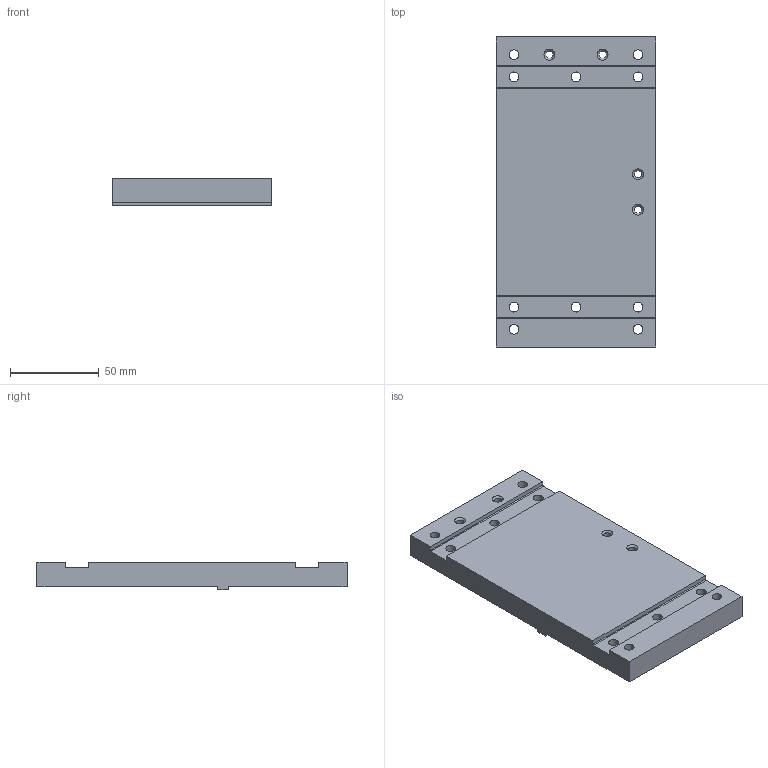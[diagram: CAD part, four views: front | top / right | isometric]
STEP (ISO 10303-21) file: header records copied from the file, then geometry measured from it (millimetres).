
FILE_DESCRIPTION(('STEP AP203'), '1');
FILE_NAME('ÒÏÏÔ1801.01.07.05.001 - Íèæíÿÿ ïëàñòèíà', '', ('UNSPECIFIED'), ('UNSPECIFIED'), 'C3D Converter', 'C3D Toolkit', '');
FILE_SCHEMA(('CONFIG_CONTROL_DESIGN'));
Length unit declared in the file: millimetre
Products named in the file (1): ТППФ1801.01.07.05.001
Bounding box: 90 x 175 x 15.8 mm (x, y, z)
Volume: 209356.1 mm3; surface area: 42736.1 mm2
Topology: 1 solids, 1 shells, 52 faces, 128 edges, 84 vertices
Faces by surface type: cylinder 24, plane 24, cone 4
Full cylindrical faces by diameter (mm): 4.134 x4, 5.5 x10, 9 x6
Entity records: 1939 total; most frequent: DIRECTION 262, CARTESIAN_POINT 241, ORIENTED_EDGE 208, EDGE_LOOP 110, AXIS2_PLACEMENT_3D 105, EDGE_CURVE 104, VERTEX_POINT 84, FACE_BOUND 62
